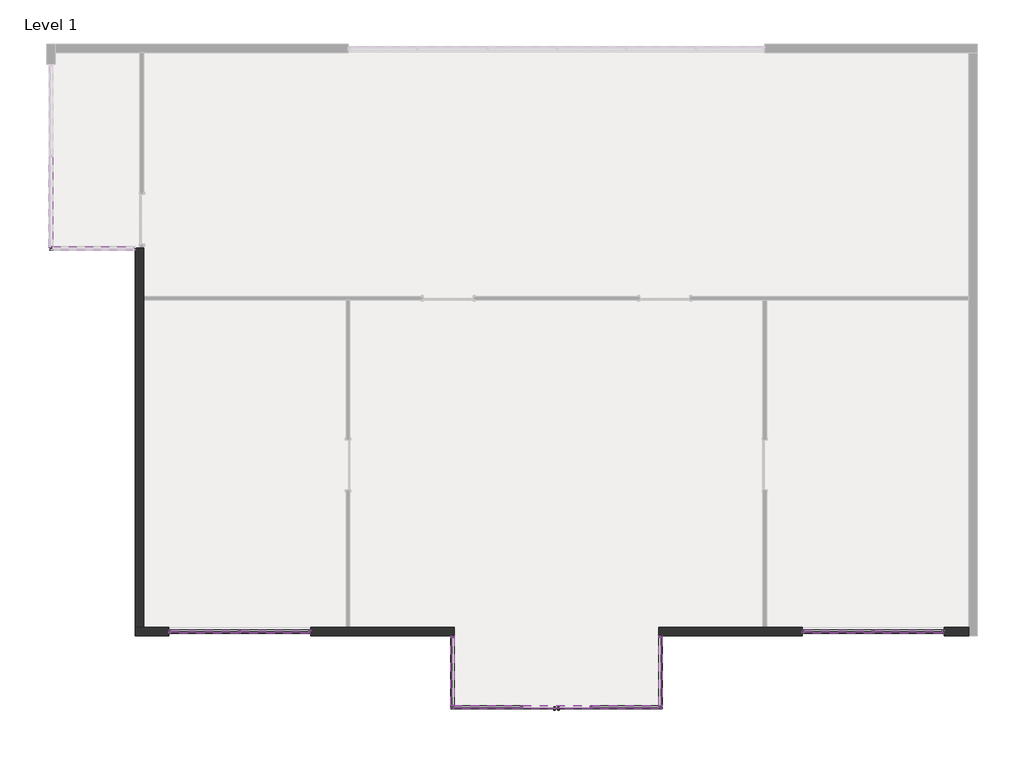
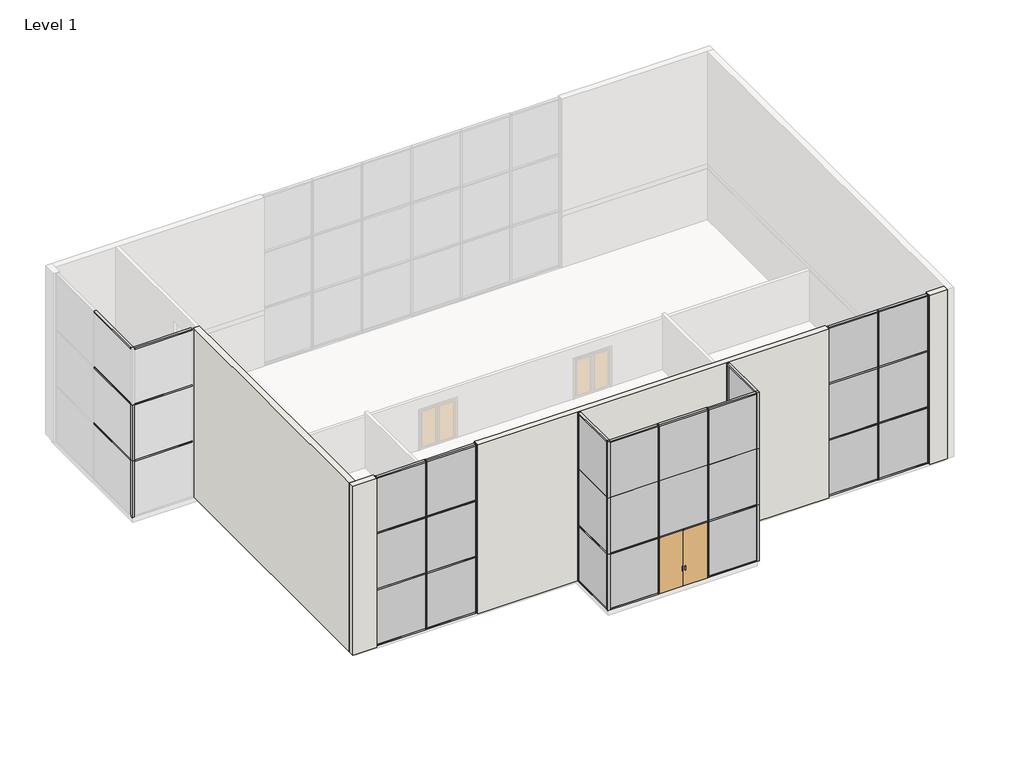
# One storey, part 1 of 2: 74 members, 26 plates, 2 walls, 1 door.
"""IFC4 building model written with IfcOpenShell, lengths in millimetres."""

from ifc_helpers import new_model, si_unit, origin, place, context, project, spatial, faceted_brep, transform, mapped, element, save
from components import m_curtain_wall_dbl_glass_m_curtain_wall_dbl_glass_65589565, member_092dde94, member_3b285806, member_887e70fb, member_3f395ae9, member_eaba9652, member_bd5c9510, member_6d1da0dd, member_11ed7e2d, member_605e1044, member_b6766b59, member_5ef46571, member_2d82c926, member_728bf22d, member_0c17b8a1, member_268c476f, system_panel_glazed_dec8f576, system_panel_glazed_a2b5a2cd, system_panel_glazed_4b2e8b6a, system_panel_glazed_935986ee, system_panel_glazed_54eba105, system_panel_glazed_2b873caf, system_panel_glazed_5724f4ed, system_panel_glazed_d0cb5eef, system_panel_glazed_25cc98ba, system_panel_glazed_d8e6d469, system_panel_glazed_b25d086d, system_panel_glazed_057324e0

model = new_model("IFC4")

# Units and contexts
model_context = context("Model", 3, world=origin())
ifc_project = project(units=[si_unit("LENGTHUNIT", "METRE", prefix="MILLI")], contexts=[model_context])

# Site, building, storey
site = spatial("IfcSite", under=ifc_project)
building = spatial("IfcBuilding", under=site)
storey = spatial("IfcBuildingStorey", under=building, Name="Level 1", Elevation=0.0)

# Door
placement = place(None, origin())
m_curtain_wall_dbl_glass_m_curtain_wall_dbl_glass_shape = m_curtain_wall_dbl_glass_m_curtain_wall_dbl_glass_65589565(model_context)
element("IfcDoor", 1, ObjectType="M_Curtain Wall Dbl Glass : M_Curtain Wall Dbl Glass", at=placement, inside=storey, context=model_context, shape_type="MappedRepresentation", body=[
    mapped(m_curtain_wall_dbl_glass_m_curtain_wall_dbl_glass_shape, transform((-3088.917382, -8357.3516396, 0.0), x_axis=(-1.0, 0.0, 0.0), y_axis=(0.0, -1.0, 0.0), z_axis=(0.0, 0.0, 1.0))),
])

# Members
member_shape = member_092dde94(model_context)
element("IfcMember", 2, ObjectType="Quad Corner Mullion : 5\" x 5\" Quad Corner", at=placement, inside=storey, context=model_context, shape_type="MappedRepresentation", body=[
    mapped(member_shape, transform((-6898.917382, -8357.3516396, 0.0), x_axis=(-1.0, 0.0, 0.0), y_axis=(0.0, 1.0, 0.0), z_axis=(0.0, 0.0, -1.0))),
])
element("IfcMember", 3, ObjectType="Quad Corner Mullion : 5\" x 5\" Quad Corner", at=placement, inside=storey, context=model_context, shape_type="MappedRepresentation", body=[
    mapped(member_shape, transform((721.082618, -8357.3516396, 3048.0), x_axis=(1.0, 0.0, 0.0), y_axis=(0.0, 1.0, 0.0), z_axis=(0.0, 0.0, 1.0))),
])
element("IfcMember", 4, ObjectType="Quad Corner Mullion : 5\" x 5\" Quad Corner", at=placement, inside=storey, context=model_context, shape_type="MappedRepresentation", body=[
    mapped(member_shape, transform((-21580.117382, 8438.3983604, 0.0), x_axis=(-1.0, 0.0, 0.0), y_axis=(0.0, 1.0, 0.0), z_axis=(0.0, 0.0, -1.0))),
])
element("IfcMember", 5, ObjectType="Quad Corner Mullion : 5\" x 5\" Quad Corner", at=placement, inside=storey, context=model_context, shape_type="MappedRepresentation", body=[
    mapped(member_shape, transform((-21580.117382, 8438.3983604, 3048.0), x_axis=(-1.0, 0.0, 0.0), y_axis=(0.0, 1.0, 0.0), z_axis=(0.0, 0.0, -1.0))),
])
element("IfcMember", 6, ObjectType="Quad Corner Mullion : 5\" x 5\" Quad Corner", at=placement, inside=storey, context=model_context, shape_type="MappedRepresentation", body=[
    mapped(member_shape, transform((721.082618, -8357.3516396, 9144.0), x_axis=(1.0, 0.0, 0.0), y_axis=(0.0, 1.0, 0.0), z_axis=(0.0, 0.0, 1.0))),
])
element("IfcMember", 7, ObjectType="Quad Corner Mullion : 5\" x 5\" Quad Corner", at=placement, inside=storey, context=model_context, shape_type="MappedRepresentation", body=[
    mapped(member_shape, transform((-6898.917382, -8357.3516396, 3048.0), x_axis=(-1.0, 0.0, 0.0), y_axis=(0.0, 1.0, 0.0), z_axis=(0.0, 0.0, -1.0))),
])
element("IfcMember", 8, ObjectType="Quad Corner Mullion : 5\" x 5\" Quad Corner", at=placement, inside=storey, context=model_context, shape_type="MappedRepresentation", body=[
    mapped(member_shape, transform((721.082618, -8357.3516396, 6096.0), x_axis=(1.0, 0.0, 0.0), y_axis=(0.0, 1.0, 0.0), z_axis=(0.0, 0.0, 1.0))),
])
element("IfcMember", 9, ObjectType="Quad Corner Mullion : 5\" x 5\" Quad Corner", at=placement, inside=storey, context=model_context, shape_type="MappedRepresentation", body=[
    mapped(member_shape, transform((-6898.917382, -8357.3516396, 6096.0), x_axis=(-1.0, 0.0, 0.0), y_axis=(0.0, 1.0, 0.0), z_axis=(0.0, 0.0, -1.0))),
])
member_2_shape = member_3b285806(model_context)
element("IfcMember", 10, ObjectType="Rectangular Mullion : 2.5\" x 5\" rectangular", at=placement, inside=storey, context=model_context, shape_type="MappedRepresentation", body=[
    mapped(member_2_shape, transform((-6835.417382, -8357.3516396, 9144.0), x_axis=(0.0, 0.0, 1.0), y_axis=(0.0, 1.0, 0.0), z_axis=(-1.0, 0.0, 0.0))),
])
element("IfcMember", 11, ObjectType="Rectangular Mullion : 2.5\" x 5\" rectangular", at=placement, inside=storey, context=model_context, shape_type="MappedRepresentation", body=[
    mapped(member_2_shape, transform((-1787.1673821, -8357.3516396, 9144.0), x_axis=(0.0, 0.0, 1.0), y_axis=(0.0, 1.0, 0.0), z_axis=(-1.0, 0.0, 0.0))),
])
element("IfcMember", 12, ObjectType="Rectangular Mullion : 2.5\" x 5\" rectangular", at=placement, inside=storey, context=model_context, shape_type="MappedRepresentation", body=[
    mapped(member_2_shape, transform((657.582618, -8357.3516396, 0.0), x_axis=(0.0, 0.0, -1.0), y_axis=(0.0, 1.0, 0.0), z_axis=(1.0, 0.0, 0.0))),
])
element("IfcMember", 13, ObjectType="Rectangular Mullion : 2.5\" x 5\" rectangular", at=placement, inside=storey, context=model_context, shape_type="MappedRepresentation", body=[
    mapped(member_2_shape, transform((-4390.6673819, -8357.3516396, 0.0), x_axis=(0.0, 0.0, -1.0), y_axis=(0.0, 1.0, 0.0), z_axis=(1.0, 0.0, 0.0))),
])
member_3_shape = member_887e70fb(model_context)
element("IfcMember", 14, ObjectType="Rectangular Mullion : 2.5\" x 5\" rectangular", at=placement, inside=storey, context=model_context, shape_type="MappedRepresentation", body=[
    mapped(member_3_shape, transform((-4327.1673819, -8357.3516396, 9144.0), x_axis=(0.0, 0.0, 1.0), y_axis=(0.0, 1.0, 0.0), z_axis=(-1.0, 0.0, 0.0))),
])
member_4_shape = member_3f395ae9(model_context)
element("IfcMember", 15, ObjectType="Rectangular Mullion : 2.5\" x 5\" rectangular", at=placement, inside=storey, context=model_context, shape_type="MappedRepresentation", body=[
    mapped(member_4_shape, transform((-6898.917382, -5737.9766396, 0.0), x_axis=(0.0, 1.0, 0.0), y_axis=(1.0, 0.0, 0.0), z_axis=(0.0, 0.0, -1.0))),
])
element("IfcMember", 16, ObjectType="Rectangular Mullion : 2.5\" x 5\" rectangular", at=placement, inside=storey, context=model_context, shape_type="MappedRepresentation", body=[
    mapped(member_4_shape, transform((-17262.117382, -5582.4016396, 0.0), x_axis=(-1.0, 0.0, 0.0), y_axis=(0.0, 1.0, 0.0), z_axis=(0.0, 0.0, -1.0))),
])
element("IfcMember", 17, ObjectType="Rectangular Mullion : 2.5\" x 5\" rectangular", at=placement, inside=storey, context=model_context, shape_type="MappedRepresentation", body=[
    mapped(member_4_shape, transform((-17262.117382, -5582.4016396, 6096.0), x_axis=(-1.0, 0.0, 0.0), y_axis=(0.0, 1.0, 0.0), z_axis=(0.0, 0.0, -1.0))),
])
member_5_shape = member_eaba9652(model_context)
element("IfcMember", 18, ObjectType="Rectangular Mullion : 2.5\" x 5\" rectangular", at=placement, inside=storey, context=model_context, shape_type="MappedRepresentation", body=[
    mapped(member_5_shape, transform((-1818.9173821, -8357.3516396, 0.0), x_axis=(-1.0, 0.0, 0.0), y_axis=(0.0, 1.0, 0.0), z_axis=(0.0, 0.0, -1.0))),
])
element("IfcMember", 19, ObjectType="Rectangular Mullion : 2.5\" x 5\" rectangular", at=placement, inside=storey, context=model_context, shape_type="MappedRepresentation", body=[
    mapped(member_5_shape, transform((-4358.9173819, -8357.3516396, 0.0), x_axis=(-1.0, 0.0, 0.0), y_axis=(0.0, 1.0, 0.0), z_axis=(0.0, 0.0, -1.0))),
])
element("IfcMember", 20, ObjectType="Rectangular Mullion : 2.5\" x 5\" rectangular", at=placement, inside=storey, context=model_context, shape_type="MappedRepresentation", body=[
    mapped(member_5_shape, transform((-14671.317382, -5582.4016396, 0.0), x_axis=(-1.0, 0.0, 0.0), y_axis=(0.0, 1.0, 0.0), z_axis=(0.0, 0.0, -1.0))),
])
element("IfcMember", 21, ObjectType="Rectangular Mullion : 2.5\" x 5\" rectangular", at=placement, inside=storey, context=model_context, shape_type="MappedRepresentation", body=[
    mapped(member_5_shape, transform((-14671.317382, -5582.4016396, 6096.0), x_axis=(-1.0, 0.0, 0.0), y_axis=(0.0, 1.0, 0.0), z_axis=(0.0, 0.0, -1.0))),
])
member_6_shape = member_bd5c9510(model_context)
element("IfcMember", 22, ObjectType="Rectangular Mullion : 2.5\" x 5\" rectangular", at=placement, inside=storey, context=model_context, shape_type="MappedRepresentation", body=[
    mapped(member_6_shape, transform((-6835.417382, -8357.3516396, 3048.0), x_axis=(0.0, 0.0, 1.0), y_axis=(0.0, 1.0, 0.0), z_axis=(-1.0, 0.0, 0.0))),
])
element("IfcMember", 23, ObjectType="Rectangular Mullion : 2.5\" x 5\" rectangular", at=placement, inside=storey, context=model_context, shape_type="MappedRepresentation", body=[
    mapped(member_6_shape, transform((-1787.1673821, -8357.3516396, 3048.0), x_axis=(0.0, 0.0, 1.0), y_axis=(0.0, 1.0, 0.0), z_axis=(-1.0, 0.0, 0.0))),
])
member_7_shape = member_6d1da0dd(model_context)
element("IfcMember", 24, ObjectType="Rectangular Mullion : 2.5\" x 5\" rectangular", at=placement, inside=storey, context=model_context, shape_type="MappedRepresentation", body=[
    mapped(member_7_shape, transform((-4327.1673819, -8357.3516396, 3048.0), x_axis=(0.0, 0.0, 1.0), y_axis=(0.0, 1.0, 0.0), z_axis=(-1.0, 0.0, 0.0))),
])
element("IfcMember", 25, ObjectType="Rectangular Mullion : 2.5\" x 5\" rectangular", at=placement, inside=storey, context=model_context, shape_type="MappedRepresentation", body=[
    mapped(member_4_shape, transform((-12080.517382, -5582.4016396, 9144.0), x_axis=(1.0, 0.0, 0.0), y_axis=(0.0, 1.0, 0.0), z_axis=(0.0, 0.0, 1.0))),
])
element("IfcMember", 26, ObjectType="Rectangular Mullion : 2.5\" x 5\" rectangular", at=placement, inside=storey, context=model_context, shape_type="MappedRepresentation", body=[
    mapped(member_4_shape, transform((721.082618, -5737.9766396, 3048.0), x_axis=(0.0, 1.0, 0.0), y_axis=(-1.0, 0.0, 0.0), z_axis=(0.0, 0.0, 1.0))),
])
element("IfcMember", 27, ObjectType="Rectangular Mullion : 2.5\" x 5\" rectangular", at=placement, inside=storey, context=model_context, shape_type="MappedRepresentation", body=[
    mapped(member_4_shape, transform((-12080.517382, -5582.4016396, 3048.0), x_axis=(1.0, 0.0, 0.0), y_axis=(0.0, 1.0, 0.0), z_axis=(0.0, 0.0, 1.0))),
])
element("IfcMember", 28, ObjectType="Rectangular Mullion : 2.5\" x 5\" rectangular", at=placement, inside=storey, context=model_context, shape_type="MappedRepresentation", body=[
    mapped(member_5_shape, transform((8493.482618, -5582.4016396, 0.0), x_axis=(1.0, 0.0, 0.0), y_axis=(0.0, -1.0, 0.0), z_axis=(0.0, 0.0, -1.0))),
])
element("IfcMember", 29, ObjectType="Rectangular Mullion : 2.5\" x 5\" rectangular", at=placement, inside=storey, context=model_context, shape_type="MappedRepresentation", body=[
    mapped(member_5_shape, transform((8493.482618, -5582.4016396, 3048.0), x_axis=(1.0, 0.0, 0.0), y_axis=(0.0, -1.0, 0.0), z_axis=(0.0, 0.0, -1.0))),
])
element("IfcMember", 30, ObjectType="Rectangular Mullion : 2.5\" x 5\" rectangular", at=placement, inside=storey, context=model_context, shape_type="MappedRepresentation", body=[
    mapped(member_5_shape, transform((8493.482618, -5582.4016396, 6096.0), x_axis=(1.0, 0.0, 0.0), y_axis=(0.0, -1.0, 0.0), z_axis=(0.0, 0.0, -1.0))),
])
element("IfcMember", 31, ObjectType="Rectangular Mullion : 2.5\" x 5\" rectangular", at=placement, inside=storey, context=model_context, shape_type="MappedRepresentation", body=[
    mapped(member_4_shape, transform((5902.682618, -5582.4016396, 9144.0), x_axis=(-1.0, 0.0, 0.0), y_axis=(0.0, -1.0, 0.0), z_axis=(0.0, 0.0, 1.0))),
])
element("IfcMember", 32, ObjectType="Rectangular Mullion : 2.5\" x 5\" rectangular", at=placement, inside=storey, context=model_context, shape_type="MappedRepresentation", body=[
    mapped(member_4_shape, transform((11084.282618, -5582.4016396, 0.0), x_axis=(1.0, 0.0, 0.0), y_axis=(0.0, -1.0, 0.0), z_axis=(0.0, 0.0, -1.0))),
])
element("IfcMember", 33, ObjectType="Rectangular Mullion : 2.5\" x 5\" rectangular", at=placement, inside=storey, context=model_context, shape_type="MappedRepresentation", body=[
    mapped(member_4_shape, transform((11084.282618, -5582.4016396, 3048.0), x_axis=(1.0, 0.0, 0.0), y_axis=(0.0, -1.0, 0.0), z_axis=(0.0, 0.0, -1.0))),
])
element("IfcMember", 34, ObjectType="Rectangular Mullion : 2.5\" x 5\" rectangular", at=placement, inside=storey, context=model_context, shape_type="MappedRepresentation", body=[
    mapped(member_4_shape, transform((11084.282618, -5582.4016396, 6096.0), x_axis=(1.0, 0.0, 0.0), y_axis=(0.0, -1.0, 0.0), z_axis=(0.0, 0.0, -1.0))),
])
element("IfcMember", 35, ObjectType="Rectangular Mullion : 2.5\" x 5\" rectangular", at=placement, inside=storey, context=model_context, shape_type="MappedRepresentation", body=[
    mapped(member_4_shape, transform((5902.682618, -5582.4016396, 3048.0), x_axis=(-1.0, 0.0, 0.0), y_axis=(0.0, -1.0, 0.0), z_axis=(0.0, 0.0, 1.0))),
])
element("IfcMember", 36, ObjectType="Rectangular Mullion : 2.5\" x 5\" rectangular", at=placement, inside=storey, context=model_context, shape_type="MappedRepresentation", body=[
    mapped(member_4_shape, transform((5902.682618, -5582.4016396, 6096.0), x_axis=(-1.0, 0.0, 0.0), y_axis=(0.0, -1.0, 0.0), z_axis=(0.0, 0.0, 1.0))),
])
member_8_shape = member_11ed7e2d(model_context)
element("IfcMember", 37, ObjectType="Rectangular Mullion : 2.5\" x 5\" rectangular", at=placement, inside=storey, context=model_context, shape_type="MappedRepresentation", body=[
    mapped(member_8_shape, transform((-6898.917382, -5801.4766396, 9144.0), x_axis=(0.0, 0.0, 1.0), y_axis=(1.0, 0.0, 0.0), z_axis=(0.0, 1.0, 0.0))),
])
element("IfcMember", 38, ObjectType="Rectangular Mullion : 2.5\" x 5\" rectangular", at=placement, inside=storey, context=model_context, shape_type="MappedRepresentation", body=[
    mapped(member_8_shape, transform((721.082618, -8293.8516396, 9144.0), x_axis=(0.0, 0.0, 1.0), y_axis=(-1.0, 0.0, 0.0), z_axis=(0.0, -1.0, 0.0))),
])
element("IfcMember", 39, ObjectType="Rectangular Mullion : 2.5\" x 5\" rectangular", at=placement, inside=storey, context=model_context, shape_type="MappedRepresentation", body=[
    mapped(member_8_shape, transform((-6898.917382, -8293.8516396, 0.0), x_axis=(0.0, 0.0, -1.0), y_axis=(1.0, 0.0, 0.0), z_axis=(0.0, -1.0, 0.0))),
])
element("IfcMember", 40, ObjectType="Rectangular Mullion : 2.5\" x 5\" rectangular", at=placement, inside=storey, context=model_context, shape_type="MappedRepresentation", body=[
    mapped(member_8_shape, transform((721.082618, -5801.4766396, 0.0), x_axis=(0.0, 0.0, -1.0), y_axis=(-1.0, 0.0, 0.0), z_axis=(0.0, 1.0, 0.0))),
])
member_9_shape = member_605e1044(model_context)
element("IfcMember", 41, ObjectType="Rectangular Mullion : 2.5\" x 5\" rectangular", at=placement, inside=storey, context=model_context, shape_type="MappedRepresentation", body=[
    mapped(member_9_shape, transform((-6898.917382, -5801.4766396, 3048.0), x_axis=(0.0, 0.0, 1.0), y_axis=(1.0, 0.0, 0.0), z_axis=(0.0, 1.0, 0.0))),
])
element("IfcMember", 42, ObjectType="Rectangular Mullion : 2.5\" x 5\" rectangular", at=placement, inside=storey, context=model_context, shape_type="MappedRepresentation", body=[
    mapped(member_9_shape, transform((721.082618, -8293.8516396, 3048.0), x_axis=(0.0, 0.0, 1.0), y_axis=(-1.0, 0.0, 0.0), z_axis=(0.0, -1.0, 0.0))),
])
member_10_shape = member_b6766b59(model_context)
element("IfcMember", 43, ObjectType="Rectangular Mullion : 2.5\" x 5\" rectangular", at=placement, inside=storey, context=model_context, shape_type="MappedRepresentation", body=[
    mapped(member_10_shape, transform((-17198.617382, -5582.4016396, 9144.0), x_axis=(0.0, 0.0, 1.0), y_axis=(0.0, 1.0, 0.0), z_axis=(-1.0, 0.0, 0.0))),
])
element("IfcMember", 44, ObjectType="Rectangular Mullion : 2.5\" x 5\" rectangular", at=placement, inside=storey, context=model_context, shape_type="MappedRepresentation", body=[
    mapped(member_10_shape, transform((-14639.567382, -5582.4016396, 9144.0), x_axis=(0.0, 0.0, 1.0), y_axis=(0.0, 1.0, 0.0), z_axis=(-1.0, 0.0, 0.0))),
])
element("IfcMember", 45, ObjectType="Rectangular Mullion : 2.5\" x 5\" rectangular", at=placement, inside=storey, context=model_context, shape_type="MappedRepresentation", body=[
    mapped(member_10_shape, transform((-12144.017382, -5582.4016396, 0.0), x_axis=(0.0, 0.0, -1.0), y_axis=(0.0, 1.0, 0.0), z_axis=(1.0, 0.0, 0.0))),
])
element("IfcMember", 46, ObjectType="Rectangular Mullion : 2.5\" x 5\" rectangular", at=placement, inside=storey, context=model_context, shape_type="MappedRepresentation", body=[
    mapped(member_10_shape, transform((-14703.067382, -5582.4016396, 0.0), x_axis=(0.0, 0.0, -1.0), y_axis=(0.0, 1.0, 0.0), z_axis=(1.0, 0.0, 0.0))),
])
member_11_shape = member_5ef46571(model_context)
element("IfcMember", 47, ObjectType="Rectangular Mullion : 2.5\" x 5\" rectangular", at=placement, inside=storey, context=model_context, shape_type="MappedRepresentation", body=[
    mapped(member_11_shape, transform((-14639.567382, -5582.4016396, 3048.0), x_axis=(0.0, 0.0, 1.0), y_axis=(0.0, 1.0, 0.0), z_axis=(-1.0, 0.0, 0.0))),
])
element("IfcMember", 48, ObjectType="Rectangular Mullion : 2.5\" x 5\" rectangular", at=placement, inside=storey, context=model_context, shape_type="MappedRepresentation", body=[
    mapped(member_11_shape, transform((-17198.617382, -5582.4016396, 3048.0), x_axis=(0.0, 0.0, 1.0), y_axis=(0.0, 1.0, 0.0), z_axis=(-1.0, 0.0, 0.0))),
])
element("IfcMember", 49, ObjectType="Rectangular Mullion : 2.5\" x 5\" rectangular", at=placement, inside=storey, context=model_context, shape_type="MappedRepresentation", body=[
    mapped(member_11_shape, transform((-14639.567382, -5582.4016396, 6096.0), x_axis=(0.0, 0.0, 1.0), y_axis=(0.0, 1.0, 0.0), z_axis=(-1.0, 0.0, 0.0))),
])
element("IfcMember", 50, ObjectType="Rectangular Mullion : 2.5\" x 5\" rectangular", at=placement, inside=storey, context=model_context, shape_type="MappedRepresentation", body=[
    mapped(member_11_shape, transform((-17198.617382, -5582.4016396, 6096.0), x_axis=(0.0, 0.0, 1.0), y_axis=(0.0, 1.0, 0.0), z_axis=(-1.0, 0.0, 0.0))),
])
element("IfcMember", 51, ObjectType="Rectangular Mullion : 2.5\" x 5\" rectangular", at=placement, inside=storey, context=model_context, shape_type="MappedRepresentation", body=[
    mapped(member_5_shape, transform((-14671.317382, -5582.4016396, 3048.0), x_axis=(-1.0, 0.0, 0.0), y_axis=(0.0, 1.0, 0.0), z_axis=(0.0, 0.0, -1.0))),
])
element("IfcMember", 52, ObjectType="Rectangular Mullion : 2.5\" x 5\" rectangular", at=placement, inside=storey, context=model_context, shape_type="MappedRepresentation", body=[
    mapped(member_4_shape, transform((-17262.117382, -5582.4016396, 3048.0), x_axis=(-1.0, 0.0, 0.0), y_axis=(0.0, 1.0, 0.0), z_axis=(0.0, 0.0, -1.0))),
])
element("IfcMember", 53, ObjectType="Rectangular Mullion : 2.5\" x 5\" rectangular", at=placement, inside=storey, context=model_context, shape_type="MappedRepresentation", body=[
    mapped(member_4_shape, transform((-12080.517382, -5582.4016396, 6096.0), x_axis=(1.0, 0.0, 0.0), y_axis=(0.0, 1.0, 0.0), z_axis=(0.0, 0.0, 1.0))),
])
element("IfcMember", 54, ObjectType="Rectangular Mullion : 2.5\" x 5\" rectangular", at=placement, inside=storey, context=model_context, shape_type="MappedRepresentation", body=[
    mapped(member_10_shape, transform((11020.782618, -5582.4016396, 9144.0), x_axis=(0.0, 0.0, 1.0), y_axis=(0.0, -1.0, 0.0), z_axis=(1.0, 0.0, 0.0))),
])
element("IfcMember", 55, ObjectType="Rectangular Mullion : 2.5\" x 5\" rectangular", at=placement, inside=storey, context=model_context, shape_type="MappedRepresentation", body=[
    mapped(member_10_shape, transform((8461.732618, -5582.4016396, 9144.0), x_axis=(0.0, 0.0, 1.0), y_axis=(0.0, -1.0, 0.0), z_axis=(1.0, 0.0, 0.0))),
])
element("IfcMember", 56, ObjectType="Rectangular Mullion : 2.5\" x 5\" rectangular", at=placement, inside=storey, context=model_context, shape_type="MappedRepresentation", body=[
    mapped(member_10_shape, transform((5966.182618, -5582.4016396, 0.0), x_axis=(0.0, 0.0, -1.0), y_axis=(0.0, -1.0, 0.0), z_axis=(-1.0, 0.0, 0.0))),
])
element("IfcMember", 57, ObjectType="Rectangular Mullion : 2.5\" x 5\" rectangular", at=placement, inside=storey, context=model_context, shape_type="MappedRepresentation", body=[
    mapped(member_10_shape, transform((8525.232618, -5582.4016396, 0.0), x_axis=(0.0, 0.0, -1.0), y_axis=(0.0, -1.0, 0.0), z_axis=(-1.0, 0.0, 0.0))),
])
element("IfcMember", 58, ObjectType="Rectangular Mullion : 2.5\" x 5\" rectangular", at=placement, inside=storey, context=model_context, shape_type="MappedRepresentation", body=[
    mapped(member_11_shape, transform((8461.732618, -5582.4016396, 3048.0), x_axis=(0.0, 0.0, 1.0), y_axis=(0.0, -1.0, 0.0), z_axis=(1.0, 0.0, 0.0))),
])
element("IfcMember", 59, ObjectType="Rectangular Mullion : 2.5\" x 5\" rectangular", at=placement, inside=storey, context=model_context, shape_type="MappedRepresentation", body=[
    mapped(member_11_shape, transform((11020.782618, -5582.4016396, 3048.0), x_axis=(0.0, 0.0, 1.0), y_axis=(0.0, -1.0, 0.0), z_axis=(1.0, 0.0, 0.0))),
])
element("IfcMember", 60, ObjectType="Rectangular Mullion : 2.5\" x 5\" rectangular", at=placement, inside=storey, context=model_context, shape_type="MappedRepresentation", body=[
    mapped(member_11_shape, transform((8461.732618, -5582.4016396, 6096.0), x_axis=(0.0, 0.0, 1.0), y_axis=(0.0, -1.0, 0.0), z_axis=(1.0, 0.0, 0.0))),
])
element("IfcMember", 61, ObjectType="Rectangular Mullion : 2.5\" x 5\" rectangular", at=placement, inside=storey, context=model_context, shape_type="MappedRepresentation", body=[
    mapped(member_11_shape, transform((11020.782618, -5582.4016396, 6096.0), x_axis=(0.0, 0.0, 1.0), y_axis=(0.0, -1.0, 0.0), z_axis=(1.0, 0.0, 0.0))),
])
member_12_shape = member_2d82c926(model_context)
element("IfcMember", 62, ObjectType="Rectangular Mullion : 2.5\" x 5\" rectangular", at=placement, inside=storey, context=model_context, shape_type="MappedRepresentation", body=[
    mapped(member_12_shape, transform((-21580.117382, 8501.8983604, 9144.0), x_axis=(0.0, 0.0, 1.0), y_axis=(-1.0, 0.0, 0.0), z_axis=(0.0, -1.0, 0.0))),
])
member_13_shape = member_728bf22d(model_context)
element("IfcMember", 63, ObjectType="Rectangular Mullion : 2.5\" x 5\" rectangular", at=placement, inside=storey, context=model_context, shape_type="MappedRepresentation", body=[
    mapped(member_13_shape, transform((-21580.117382, 8501.8983604, 3048.0), x_axis=(0.0, 0.0, 1.0), y_axis=(-1.0, 0.0, 0.0), z_axis=(0.0, -1.0, 0.0))),
])
element("IfcMember", 64, ObjectType="Rectangular Mullion : 2.5\" x 5\" rectangular", at=placement, inside=storey, context=model_context, shape_type="MappedRepresentation", body=[
    mapped(member_13_shape, transform((-21580.117382, 8501.8983604, 6096.0), x_axis=(0.0, 0.0, 1.0), y_axis=(-1.0, 0.0, 0.0), z_axis=(0.0, -1.0, 0.0))),
])
member_14_shape = member_0c17b8a1(model_context)
element("IfcMember", 65, ObjectType="Rectangular Mullion : 2.5\" x 5\" rectangular", at=placement, inside=storey, context=model_context, shape_type="MappedRepresentation", body=[
    mapped(member_14_shape, transform((-21516.617382, 8438.3983604, 9144.0), x_axis=(0.0, 0.0, 1.0), y_axis=(0.0, 1.0, 0.0), z_axis=(-1.0, 0.0, 0.0))),
])
member_15_shape = member_268c476f(model_context)
element("IfcMember", 66, ObjectType="Rectangular Mullion : 2.5\" x 5\" rectangular", at=placement, inside=storey, context=model_context, shape_type="MappedRepresentation", body=[
    mapped(member_15_shape, transform((-21516.617382, 8438.3983604, 3048.0), x_axis=(0.0, 0.0, 1.0), y_axis=(0.0, 1.0, 0.0), z_axis=(-1.0, 0.0, 0.0))),
])
element("IfcMember", 67, ObjectType="Rectangular Mullion : 2.5\" x 5\" rectangular", at=placement, inside=storey, context=model_context, shape_type="MappedRepresentation", body=[
    mapped(member_15_shape, transform((-21516.617382, 8438.3983604, 6096.0), x_axis=(0.0, 0.0, 1.0), y_axis=(0.0, 1.0, 0.0), z_axis=(-1.0, 0.0, 0.0))),
])
element("IfcMember", 68, ObjectType="Rectangular Mullion : 2.5\" x 5\" rectangular", at=placement, inside=storey, context=model_context, shape_type="MappedRepresentation", body=[
    mapped(member_5_shape, transform((-1818.9173821, -8357.3516396, 3048.0), x_axis=(-1.0, 0.0, 0.0), y_axis=(0.0, 1.0, 0.0), z_axis=(0.0, 0.0, -1.0))),
])
element("IfcMember", 69, ObjectType="Rectangular Mullion : 2.5\" x 5\" rectangular", at=placement, inside=storey, context=model_context, shape_type="MappedRepresentation", body=[
    mapped(member_5_shape, transform((-4358.9173819, -8357.3516396, 3048.0), x_axis=(-1.0, 0.0, 0.0), y_axis=(0.0, 1.0, 0.0), z_axis=(0.0, 0.0, -1.0))),
])
element("IfcMember", 70, ObjectType="Rectangular Mullion : 2.5\" x 5\" rectangular", at=placement, inside=storey, context=model_context, shape_type="MappedRepresentation", body=[
    mapped(member_5_shape, transform((-1818.9173821, -8357.3516396, 6096.0), x_axis=(-1.0, 0.0, 0.0), y_axis=(0.0, 1.0, 0.0), z_axis=(0.0, 0.0, -1.0))),
])
element("IfcMember", 71, ObjectType="Rectangular Mullion : 2.5\" x 5\" rectangular", at=placement, inside=storey, context=model_context, shape_type="MappedRepresentation", body=[
    mapped(member_5_shape, transform((-4358.9173819, -8357.3516396, 6096.0), x_axis=(-1.0, 0.0, 0.0), y_axis=(0.0, 1.0, 0.0), z_axis=(0.0, 0.0, -1.0))),
])
element("IfcMember", 72, ObjectType="Rectangular Mullion : 2.5\" x 5\" rectangular", at=placement, inside=storey, context=model_context, shape_type="MappedRepresentation", body=[
    mapped(member_4_shape, transform((721.082618, -5737.9766396, 9144.0), x_axis=(0.0, 1.0, 0.0), y_axis=(-1.0, 0.0, 0.0), z_axis=(0.0, 0.0, 1.0))),
])
element("IfcMember", 73, ObjectType="Rectangular Mullion : 2.5\" x 5\" rectangular", at=placement, inside=storey, context=model_context, shape_type="MappedRepresentation", body=[
    mapped(member_4_shape, transform((-6898.917382, -5737.9766396, 3048.0), x_axis=(0.0, 1.0, 0.0), y_axis=(1.0, 0.0, 0.0), z_axis=(0.0, 0.0, -1.0))),
])
element("IfcMember", 74, ObjectType="Rectangular Mullion : 2.5\" x 5\" rectangular", at=placement, inside=storey, context=model_context, shape_type="MappedRepresentation", body=[
    mapped(member_4_shape, transform((721.082618, -5737.9766396, 6096.0), x_axis=(0.0, 1.0, 0.0), y_axis=(-1.0, 0.0, 0.0), z_axis=(0.0, 0.0, 1.0))),
])
element("IfcMember", 75, ObjectType="Rectangular Mullion : 2.5\" x 5\" rectangular", at=placement, inside=storey, context=model_context, shape_type="MappedRepresentation", body=[
    mapped(member_4_shape, transform((-6898.917382, -5737.9766396, 6096.0), x_axis=(0.0, 1.0, 0.0), y_axis=(1.0, 0.0, 0.0), z_axis=(0.0, 0.0, -1.0))),
])

# Plates
system_panel_glazed_shape = system_panel_glazed_dec8f576(model_context)
element("IfcPlate", 76, ObjectType="System Panel : Glazed", at=placement, inside=storey, context=model_context, shape_type="MappedRepresentation", body=[
    mapped(system_panel_glazed_shape, transform((-564.792382, -8357.3516396, 63.5), x_axis=(-1.0, 0.0, 0.0), y_axis=(0.0, -1.0, 0.0), z_axis=(0.0, 0.0, 1.0))),
])
element("IfcPlate", 77, ObjectType="System Panel : Glazed", at=placement, inside=storey, context=model_context, shape_type="MappedRepresentation", body=[
    mapped(system_panel_glazed_shape, transform((-5613.0423819, -8357.3516396, 63.5), x_axis=(-1.0, 0.0, 0.0), y_axis=(0.0, -1.0, 0.0), z_axis=(0.0, 0.0, 1.0))),
])
system_panel_glazed_2_shape = system_panel_glazed_a2b5a2cd(model_context)
element("IfcPlate", 78, ObjectType="System Panel : Glazed", at=placement, inside=storey, context=model_context, shape_type="MappedRepresentation", body=[
    mapped(system_panel_glazed_2_shape, transform((721.082618, -7047.6641396, 63.5), x_axis=(0.0, -1.0, 0.0), y_axis=(1.0, 0.0, 0.0), z_axis=(0.0, 0.0, 1.0))),
])
element("IfcPlate", 79, ObjectType="System Panel : Glazed", at=placement, inside=storey, context=model_context, shape_type="MappedRepresentation", body=[
    mapped(system_panel_glazed_2_shape, transform((-6898.917382, -7047.6641396, 63.5), x_axis=(0.0, 1.0, 0.0), y_axis=(-1.0, 0.0, 0.0), z_axis=(0.0, 0.0, 1.0))),
])
system_panel_glazed_3_shape = system_panel_glazed_4b2e8b6a(model_context)
element("IfcPlate", 80, ObjectType="System Panel : Glazed", at=placement, inside=storey, context=model_context, shape_type="MappedRepresentation", body=[
    mapped(system_panel_glazed_3_shape, transform((-13391.792382, -5582.4016396, 63.5), x_axis=(-1.0, 0.0, 0.0), y_axis=(0.0, -1.0, 0.0), z_axis=(0.0, 0.0, 1.0))),
])
element("IfcPlate", 81, ObjectType="System Panel : Glazed", at=placement, inside=storey, context=model_context, shape_type="MappedRepresentation", body=[
    mapped(system_panel_glazed_3_shape, transform((-15950.842382, -5582.4016396, 63.5), x_axis=(-1.0, 0.0, 0.0), y_axis=(0.0, -1.0, 0.0), z_axis=(0.0, 0.0, 1.0))),
])
element("IfcPlate", 82, ObjectType="System Panel : Glazed", at=placement, inside=storey, context=model_context, shape_type="MappedRepresentation", body=[
    mapped(system_panel_glazed_3_shape, transform((-13391.792382, -5582.4016396, 6127.75), x_axis=(-1.0, 0.0, 0.0), y_axis=(0.0, -1.0, 0.0), z_axis=(0.0, 0.0, 1.0))),
])
element("IfcPlate", 83, ObjectType="System Panel : Glazed", at=placement, inside=storey, context=model_context, shape_type="MappedRepresentation", body=[
    mapped(system_panel_glazed_3_shape, transform((-15950.842382, -5582.4016396, 6127.75), x_axis=(-1.0, 0.0, 0.0), y_axis=(0.0, -1.0, 0.0), z_axis=(0.0, 0.0, 1.0))),
])
system_panel_glazed_4_shape = system_panel_glazed_935986ee(model_context)
element("IfcPlate", 84, ObjectType="System Panel : Glazed", at=placement, inside=storey, context=model_context, shape_type="MappedRepresentation", body=[
    mapped(system_panel_glazed_4_shape, transform((-13391.792382, -5582.4016396, 3079.75), x_axis=(-1.0, 0.0, 0.0), y_axis=(0.0, -1.0, 0.0), z_axis=(0.0, 0.0, 1.0))),
])
element("IfcPlate", 85, ObjectType="System Panel : Glazed", at=placement, inside=storey, context=model_context, shape_type="MappedRepresentation", body=[
    mapped(system_panel_glazed_4_shape, transform((-15950.842382, -5582.4016396, 3079.75), x_axis=(-1.0, 0.0, 0.0), y_axis=(0.0, -1.0, 0.0), z_axis=(0.0, 0.0, 1.0))),
])
system_panel_glazed_5_shape = system_panel_glazed_54eba105(model_context)
element("IfcPlate", 86, ObjectType="System Panel : Glazed", at=placement, inside=storey, context=model_context, shape_type="MappedRepresentation", body=[
    mapped(system_panel_glazed_5_shape, transform((7213.957618, -5582.4016396, 63.5), x_axis=(1.0, 0.0, 0.0), y_axis=(0.0, 1.0, 0.0), z_axis=(0.0, 0.0, 1.0))),
])
element("IfcPlate", 87, ObjectType="System Panel : Glazed", at=placement, inside=storey, context=model_context, shape_type="MappedRepresentation", body=[
    mapped(system_panel_glazed_5_shape, transform((9773.007618, -5582.4016396, 63.5), x_axis=(1.0, 0.0, 0.0), y_axis=(0.0, 1.0, 0.0), z_axis=(0.0, 0.0, 1.0))),
])
element("IfcPlate", 88, ObjectType="System Panel : Glazed", at=placement, inside=storey, context=model_context, shape_type="MappedRepresentation", body=[
    mapped(system_panel_glazed_5_shape, transform((7213.957618, -5582.4016396, 6127.75), x_axis=(1.0, 0.0, 0.0), y_axis=(0.0, 1.0, 0.0), z_axis=(0.0, 0.0, 1.0))),
])
element("IfcPlate", 89, ObjectType="System Panel : Glazed", at=placement, inside=storey, context=model_context, shape_type="MappedRepresentation", body=[
    mapped(system_panel_glazed_5_shape, transform((9773.007618, -5582.4016396, 6127.75), x_axis=(1.0, 0.0, 0.0), y_axis=(0.0, 1.0, 0.0), z_axis=(0.0, 0.0, 1.0))),
])
system_panel_glazed_6_shape = system_panel_glazed_2b873caf(model_context)
element("IfcPlate", 90, ObjectType="System Panel : Glazed", at=placement, inside=storey, context=model_context, shape_type="MappedRepresentation", body=[
    mapped(system_panel_glazed_6_shape, transform((7213.957618, -5582.4016396, 3079.75), x_axis=(1.0, 0.0, 0.0), y_axis=(0.0, 1.0, 0.0), z_axis=(0.0, 0.0, 1.0))),
])
element("IfcPlate", 91, ObjectType="System Panel : Glazed", at=placement, inside=storey, context=model_context, shape_type="MappedRepresentation", body=[
    mapped(system_panel_glazed_6_shape, transform((9773.007618, -5582.4016396, 3079.75), x_axis=(1.0, 0.0, 0.0), y_axis=(0.0, 1.0, 0.0), z_axis=(0.0, 0.0, 1.0))),
])
system_panel_glazed_7_shape = system_panel_glazed_5724f4ed(model_context)
element("IfcPlate", 92, ObjectType="System Panel : Glazed", at=placement, inside=storey, context=model_context, shape_type="MappedRepresentation", body=[
    mapped(system_panel_glazed_7_shape, transform((-3088.917382, -8357.3516396, 3079.75), x_axis=(-1.0, 0.0, 0.0), y_axis=(0.0, -1.0, 0.0), z_axis=(0.0, 0.0, 1.0))),
])
system_panel_glazed_8_shape = system_panel_glazed_d0cb5eef(model_context)
element("IfcPlate", 93, ObjectType="System Panel : Glazed", at=placement, inside=storey, context=model_context, shape_type="MappedRepresentation", body=[
    mapped(system_panel_glazed_8_shape, transform((-564.792382, -8357.3516396, 3079.75), x_axis=(-1.0, 0.0, 0.0), y_axis=(0.0, -1.0, 0.0), z_axis=(0.0, 0.0, 1.0))),
])
element("IfcPlate", 94, ObjectType="System Panel : Glazed", at=placement, inside=storey, context=model_context, shape_type="MappedRepresentation", body=[
    mapped(system_panel_glazed_8_shape, transform((-5613.0423819, -8357.3516396, 3079.75), x_axis=(-1.0, 0.0, 0.0), y_axis=(0.0, -1.0, 0.0), z_axis=(0.0, 0.0, 1.0))),
])
system_panel_glazed_9_shape = system_panel_glazed_25cc98ba(model_context)
element("IfcPlate", 95, ObjectType="System Panel : Glazed", at=placement, inside=storey, context=model_context, shape_type="MappedRepresentation", body=[
    mapped(system_panel_glazed_9_shape, transform((-3088.917382, -8357.3516396, 6096.0), x_axis=(-1.0, 0.0, 0.0), y_axis=(0.0, -1.0, 0.0), z_axis=(0.0, 0.0, 1.0))),
])
system_panel_glazed_10_shape = system_panel_glazed_d8e6d469(model_context)
element("IfcPlate", 96, ObjectType="System Panel : Glazed", at=placement, inside=storey, context=model_context, shape_type="MappedRepresentation", body=[
    mapped(system_panel_glazed_10_shape, transform((721.082618, -7047.6641396, 3079.75), x_axis=(0.0, -1.0, 0.0), y_axis=(1.0, 0.0, 0.0), z_axis=(0.0, 0.0, 1.0))),
])
element("IfcPlate", 97, ObjectType="System Panel : Glazed", at=placement, inside=storey, context=model_context, shape_type="MappedRepresentation", body=[
    mapped(system_panel_glazed_10_shape, transform((-6898.917382, -7047.6641396, 3079.75), x_axis=(0.0, 1.0, 0.0), y_axis=(-1.0, 0.0, 0.0), z_axis=(0.0, 0.0, 1.0))),
])
system_panel_glazed_11_shape = system_panel_glazed_b25d086d(model_context)
element("IfcPlate", 98, ObjectType="System Panel : Glazed", at=placement, inside=storey, context=model_context, shape_type="MappedRepresentation", body=[
    mapped(system_panel_glazed_11_shape, transform((721.082618, -7047.6641396, 6096.0), x_axis=(0.0, -1.0, 0.0), y_axis=(1.0, 0.0, 0.0), z_axis=(0.0, 0.0, 1.0))),
])
element("IfcPlate", 99, ObjectType="System Panel : Glazed", at=placement, inside=storey, context=model_context, shape_type="MappedRepresentation", body=[
    mapped(system_panel_glazed_11_shape, transform((-6898.917382, -7047.6641396, 6096.0), x_axis=(0.0, 1.0, 0.0), y_axis=(-1.0, 0.0, 0.0), z_axis=(0.0, 0.0, 1.0))),
])
system_panel_glazed_12_shape = system_panel_glazed_057324e0(model_context)
element("IfcPlate", 100, ObjectType="System Panel : Glazed", at=placement, inside=storey, context=model_context, shape_type="MappedRepresentation", body=[
    mapped(system_panel_glazed_12_shape, transform((-564.792382, -8357.3516396, 6096.0), x_axis=(-1.0, 0.0, 0.0), y_axis=(0.0, -1.0, 0.0), z_axis=(0.0, 0.0, 1.0))),
])
element("IfcPlate", 101, ObjectType="System Panel : Glazed", at=placement, inside=storey, context=model_context, shape_type="MappedRepresentation", body=[
    mapped(system_panel_glazed_12_shape, transform((-5613.0423819, -8357.3516396, 6096.0), x_axis=(-1.0, 0.0, 0.0), y_axis=(0.0, -1.0, 0.0), z_axis=(0.0, 0.0, 1.0))),
])

# Walls
element("IfcWall", 102, ObjectType="Exterior - EIFS on Mtl. Stud", at=placement, inside=storey, context=model_context, shape_type="Brep", body=[
    faceted_brep([(-18484.492382, -5426.8266396, 0.0), (-18484.492382, -5426.8266396, 9144.0), (-18173.342382, -5426.8266396, 9144.0), (-17262.117382, -5426.8266396, 9144.0), (-17262.117382, -5426.8266396, 3048.0), (-18173.342382, -5426.8266396, 3048.0), (-18186.042382, -5426.8266396, 3048.0), (-18186.042382, -5426.8266396, 2774.95), (-17262.117382, -5426.8266396, 2774.95), (-17262.117382, -5426.8266396, 0.0), (-18173.342382, -5426.8266396, 0.0), (-18484.492382, -5737.9766396, 9144.0), (-18484.492382, -5737.9766396, 0.0), (-17262.117382, -5737.9766396, 0.0), (-17262.117382, -5737.9766396, 9144.0), (-18186.042382, -5439.5266396, 2774.95), (-17262.117382, -5439.5266396, 2774.95), (-17262.117382, -5439.5266396, 3048.0), (-18186.042382, -5439.5266396, 3048.0)], [[[0, 1, 2, 3, 4, 5, 6, 7, 8, 9, 10]], [[11, 12, 13, 14]], [[12, 0, 10, 9, 13]], [[1, 11, 14, 3, 2]], [[1, 0, 12, 11]], [[7, 15, 16, 8]], [[17, 18, 6, 5, 4]], [[15, 18, 17, 16]], [[18, 15, 7, 6]], [[14, 13, 9, 8, 16, 17, 4, 3]]]),
    faceted_brep([(657.582618, -5426.8266396, 6096.0), (-6835.417382, -5426.8266396, 6096.0), (-6835.417382, -5426.8266396, 0.0), (-10639.067382, -5426.8266396, 0.0), (-10778.767382, -5426.8266396, 0.0), (-12080.517382, -5426.8266396, 0.0), (-12080.517382, -5426.8266396, 2774.95), (-10708.917382, -5426.8266396, 2774.95), (-10708.917382, -5426.8266396, 3048.0), (-10778.767382, -5426.8266396, 3048.0), (-12080.517382, -5426.8266396, 3048.0), (-12080.517382, -5426.8266396, 9144.0), (-10778.767382, -5426.8266396, 9144.0), (-10639.067382, -5426.8266396, 9144.0), (4461.232618, -5426.8266396, 9144.0), (4600.932618, -5426.8266396, 9144.0), (5902.682618, -5426.8266396, 9144.0), (5902.682618, -5426.8266396, 3048.0), (4600.932618, -5426.8266396, 3048.0), (4531.082618, -5426.8266396, 3048.0), (4531.082618, -5426.8266396, 2774.95), (5902.682618, -5426.8266396, 2774.95), (5902.682618, -5426.8266396, 0.0), (4600.932618, -5426.8266396, 0.0), (4461.232618, -5426.8266396, 0.0), (657.582618, -5426.8266396, 0.0), (-6835.417382, -5737.9766396, 6096.0), (657.582618, -5737.9766396, 6096.0), (657.582618, -5737.9766396, 0.0), (5902.682618, -5737.9766396, 0.0), (5902.682618, -5737.9766396, 9144.0), (-12080.517382, -5737.9766396, 9144.0), (-12080.517382, -5737.9766396, 0.0), (-6835.417382, -5737.9766396, 0.0), (4531.082618, -5439.5266396, 2774.95), (5902.682618, -5439.5266396, 2774.95), (-12080.517382, -5439.5266396, 2774.95), (-10708.917382, -5439.5266396, 2774.95), (-10708.917382, -5439.5266396, 3048.0), (-12080.517382, -5439.5266396, 3048.0), (5902.682618, -5439.5266396, 3048.0), (4531.082618, -5439.5266396, 3048.0)], [[[0, 1, 2, 3, 4, 5, 6, 7, 8, 9, 10, 11, 12, 13, 14, 15, 16, 17, 18, 19, 20, 21, 22, 23, 24, 25]], [[26, 27, 28, 29, 30, 31, 32, 33]], [[28, 25, 24, 23, 22, 29]], [[2, 33, 32, 5, 4, 3]], [[30, 16, 15, 14, 13, 12, 11, 31]], [[0, 27, 26, 1]], [[27, 0, 25, 28]], [[1, 26, 33, 2]], [[20, 34, 35, 21]], [[36, 37, 7, 6]], [[8, 38, 39, 10, 9]], [[40, 41, 19, 18, 17]], [[34, 41, 40, 35]], [[38, 37, 36, 39]], [[41, 34, 20, 19]], [[37, 38, 8, 7]], [[30, 29, 22, 21, 35, 40, 17, 16]], [[32, 31, 11, 10, 39, 36, 6, 5]]]),
    faceted_brep([(11084.282618, -5426.8266396, 9144.0), (11995.507618, -5426.8266396, 9144.0), (11995.507618, -5426.8266396, 3048.0), (11084.282618, -5426.8266396, 3048.0), (11995.507618, -5426.8266396, 0.0), (11084.282618, -5426.8266396, 0.0), (11084.282618, -5426.8266396, 2774.95), (11995.507618, -5426.8266396, 2774.95), (11995.507618, -5737.9766396, 0.0), (11995.507618, -5737.9766396, 9144.0), (11084.282618, -5737.9766396, 9144.0), (11084.282618, -5737.9766396, 0.0), (11995.507618, -5439.5266396, 2774.95), (11995.507618, -5439.5266396, 3048.0), (11084.282618, -5439.5266396, 2774.95), (11084.282618, -5439.5266396, 3048.0)], [[[0, 1, 2, 3]], [[4, 5, 6, 7]], [[8, 9, 10, 11]], [[4, 8, 11, 5]], [[9, 1, 0, 10]], [[1, 9, 8, 4, 7, 12, 13, 2]], [[14, 12, 7, 6]], [[13, 15, 3, 2]], [[12, 14, 15, 13]], [[11, 10, 0, 3, 15, 14, 6, 5]]]),
])
element("IfcWall", 103, ObjectType="Exterior - EIFS on Mtl. Stud", at=placement, inside=storey, context=model_context, shape_type="Brep", body=[
    faceted_brep([(-18173.342382, -5426.8266396, 0.0), (-18173.342382, 6539.7483604, 0.0), (-18173.342382, 6679.4483604, 0.0), (-18173.342382, 8438.3983604, 0.0), (-18173.342382, 8438.3983604, 2774.95), (-18173.342382, 6679.4483604, 2774.95), (-18173.342382, 6539.7483604, 2774.95), (-18173.342382, -5426.8266396, 2774.95), (-18173.342382, 8438.3983604, 9144.0), (-18173.342382, 6679.4483604, 9144.0), (-18173.342382, 6539.7483604, 9144.0), (-18173.342382, -5426.8266396, 9144.0), (-18173.342382, -5426.8266396, 3048.0), (-18173.342382, 6539.7483604, 3048.0), (-18173.342382, 6679.4483604, 3048.0), (-18173.342382, 8438.3983604, 3048.0), (-18484.492382, 8438.3983604, 0.0), (-18484.492382, -5426.8266396, 0.0), (-18484.492382, -5426.8266396, 9144.0), (-18484.492382, 8438.3983604, 9144.0), (-18484.492382, 8438.3983604, 3048.0), (-18484.492382, 8438.3983604, 2774.95), (-18328.917382, 8438.3983604, 0.0), (-18328.917382, 8438.3983604, 9144.0), (-18186.042382, 8438.3983604, 3048.0), (-18186.042382, 8438.3983604, 2774.95), (-18186.042382, -5426.8266396, 2774.95), (-18186.042382, -5426.8266396, 3048.0)], [[[0, 1, 2, 3, 4, 5, 6, 7]], [[8, 9, 10, 11, 12, 13, 14, 15]], [[16, 17, 18, 19, 20, 21]], [[3, 2, 1, 0, 17, 16, 22]], [[3, 22, 16, 21, 20, 19, 23, 8, 15, 24, 25, 4]], [[11, 10, 9, 8, 23, 19, 18]], [[11, 18, 17, 0, 7, 26, 27, 12]], [[25, 26, 7, 6, 5, 4]], [[27, 24, 15, 14, 13, 12]], [[26, 25, 24, 27]]]),
])

save(model, "model.ifc")
